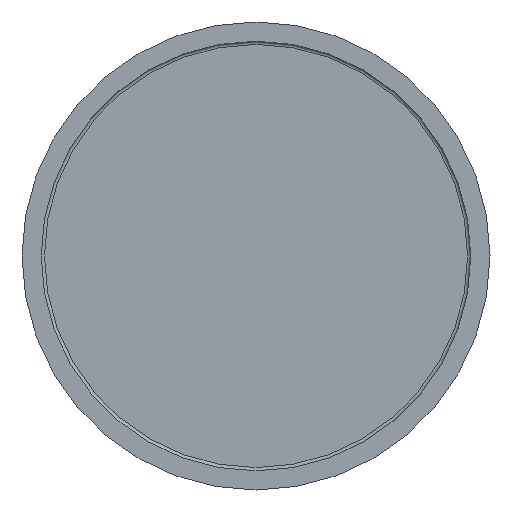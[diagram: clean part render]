
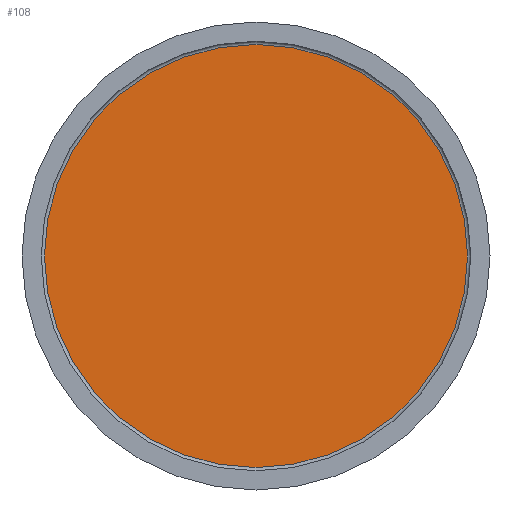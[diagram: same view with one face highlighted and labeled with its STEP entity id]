
A CAD part, left-side view. The second image highlights one B-rep face of the part: STEP entity #108.
In plain terms, the highlighted planar face has unit normal (-1, 0, 0).
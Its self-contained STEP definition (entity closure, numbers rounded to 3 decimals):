
#15=PLANE($,#125);
#31=FACE_OUTER_BOUND($,#44,.T.);
#44=EDGE_LOOP($,(#84));
#56=CIRCLE($,#126,56.5);
#64=VERTEX_POINT($,#185);
#72=EDGE_CURVE($,#64,#64,#56,.T.);
#84=ORIENTED_EDGE($,*,*,#72,.F.);
#108=ADVANCED_FACE($,(#31),#15,.T.);
#125=AXIS2_PLACEMENT_3D($,#184,#154,#155);
#126=AXIS2_PLACEMENT_3D($,#186,#156,#157);
#154=DIRECTION('center_axis',(-1.,0.,0.));
#155=DIRECTION('ref_axis',(0.,0.,1.));
#156=DIRECTION('center_axis',(1.,0.,0.));
#157=DIRECTION('ref_axis',(0.,0.,-1.));
#184=CARTESIAN_POINT('Origin',(14.87,56.5,0.));
#185=CARTESIAN_POINT('',(14.87,56.5,0.));
#186=CARTESIAN_POINT('Origin',(14.87,0.,0.));
